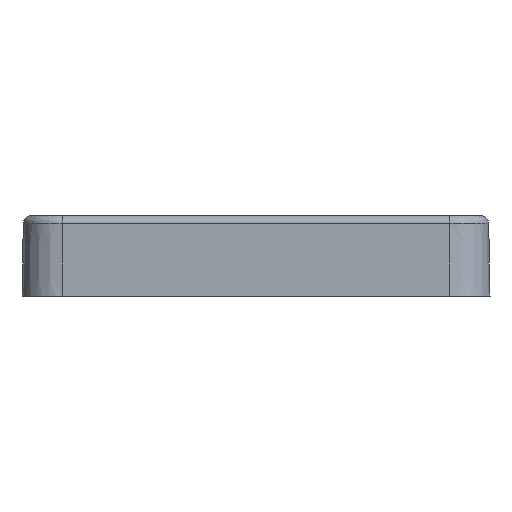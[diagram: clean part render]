
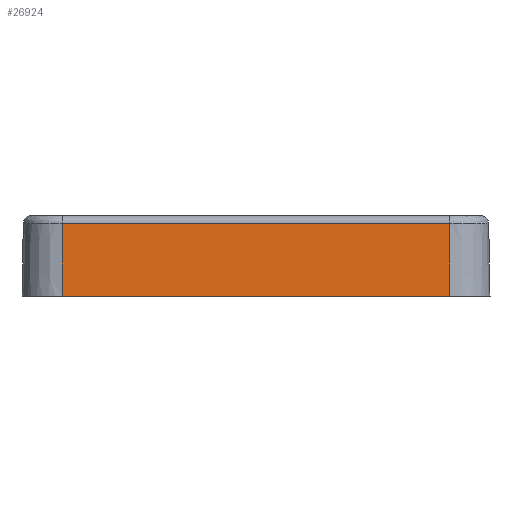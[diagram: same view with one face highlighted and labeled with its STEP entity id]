
A CAD part, left-side view. The second image highlights one B-rep face of the part: STEP entity #26924.
In plain terms, the highlighted planar face has unit normal (-1, 0, 0.018).
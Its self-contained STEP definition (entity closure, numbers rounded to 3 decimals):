
#843 = VECTOR ( 'NONE', #32891, 1000. ) ;
#1157 = EDGE_CURVE ( 'NONE', #14220, #6577, #32510, .T. ) ;
#1794 = VERTEX_POINT ( 'NONE', #41981 ) ;
#2594 = DIRECTION ( 'NONE',  ( -0.017, 0., -1. ) ) ;
#3765 = ORIENTED_EDGE ( 'NONE', *, *, #42826, .T. ) ;
#4303 = DIRECTION ( 'NONE',  ( 0.017, 0., 1. ) ) ;
#4768 = VERTEX_POINT ( 'NONE', #18068 ) ;
#5450 = CARTESIAN_POINT ( 'NONE',  ( -48.993, 24., 10.517 ) ) ;
#6577 = VERTEX_POINT ( 'NONE', #5450 ) ;
#10048 = LINE ( 'NONE', #29185, #22031 ) ;
#10118 = ORIENTED_EDGE ( 'NONE', *, *, #1157, .T. ) ;
#11691 = CARTESIAN_POINT ( 'NONE',  ( -48.993, 0., 10.517 ) ) ;
#12092 = ORIENTED_EDGE ( 'NONE', *, *, #26136, .F. ) ;
#12342 = FACE_OUTER_BOUND ( 'NONE', #27365, .T. ) ;
#12390 = AXIS2_PLACEMENT_3D ( 'NONE', #14723, #18522, #4303 ) ;
#14220 = VERTEX_POINT ( 'NONE', #24938 ) ;
#14723 = CARTESIAN_POINT ( 'NONE',  ( -49.15, 0., 1.5 ) ) ;
#18068 = CARTESIAN_POINT ( 'NONE',  ( -49.15, 24., 1.5 ) ) ;
#18522 = DIRECTION ( 'NONE',  ( -1., 0., 0.017 ) ) ;
#19782 = EDGE_CURVE ( 'NONE', #4768, #1794, #10048, .T. ) ;
#22000 = PLANE ( 'NONE',  #12390 ) ;
#22031 = VECTOR ( 'NONE', #42517, 1000. ) ;
#22500 = LINE ( 'NONE', #25356, #32320 ) ;
#24938 = CARTESIAN_POINT ( 'NONE',  ( -48.993, -24., 10.517 ) ) ;
#25356 = CARTESIAN_POINT ( 'NONE',  ( -49.15, 24., 1.5 ) ) ;
#26136 = EDGE_CURVE ( 'NONE', #14220, #1794, #27141, .T. ) ;
#26573 = CARTESIAN_POINT ( 'NONE',  ( -8759.254, -24., -499000. ) ) ;
#26924 = ADVANCED_FACE ( 'NONE', ( #12342 ), #22000, .T. ) ;
#27141 = LINE ( 'NONE', #26573, #28785 ) ;
#27365 = EDGE_LOOP ( 'NONE', ( #3765, #30678, #12092, #10118 ) ) ;
#28785 = VECTOR ( 'NONE', #2594, 1000. ) ;
#28869 = DIRECTION ( 'NONE',  ( -0.017, 0., -1. ) ) ;
#29185 = CARTESIAN_POINT ( 'NONE',  ( -49.15, 0., 1.5 ) ) ;
#30678 = ORIENTED_EDGE ( 'NONE', *, *, #19782, .T. ) ;
#32320 = VECTOR ( 'NONE', #28869, 1000. ) ;
#32510 = LINE ( 'NONE', #11691, #843 ) ;
#32891 = DIRECTION ( 'NONE',  ( 0., 1., 0. ) ) ;
#41981 = CARTESIAN_POINT ( 'NONE',  ( -49.15, -24., 1.5 ) ) ;
#42517 = DIRECTION ( 'NONE',  ( 0., -1., 0. ) ) ;
#42826 = EDGE_CURVE ( 'NONE', #6577, #4768, #22500, .T. ) ;
